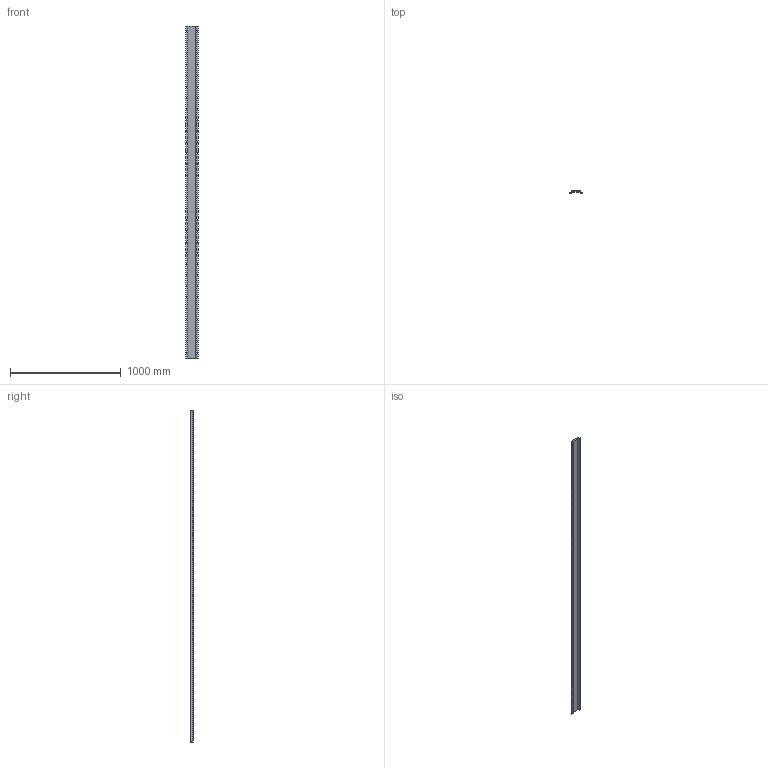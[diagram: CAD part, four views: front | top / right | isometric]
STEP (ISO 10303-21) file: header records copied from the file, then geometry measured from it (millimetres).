
FILE_DESCRIPTION (( 'STEP AP203' ), '1' );
FILE_NAME ('MLF 3_-_MLF 3 2996 mm lang.step', '2005-06-03T09:57:53', ( ' ' ), ( ' ' ), 'SwSTEP 2.0', 'SolidWorks 2004231', '' );
FILE_SCHEMA (( 'CONFIG_CONTROL_DESIGN' ));
Length unit declared in the file: millimetre
Products named in the file (1): MLF 3_-_MLF 3  2996 mm lang
Bounding box: 115 x 25.5 x 2996 mm (x, y, z)
Volume: 3889465.6 mm3; surface area: 1055218.6 mm2
Topology: 1 solids, 1 shells, 320 faces, 1146 edges, 760 vertices
Faces by surface type: plane 180, cylinder 140
Entity records: 12707 total; most frequent: CARTESIAN_POINT 2947, ORIENTED_EDGE 2292, DIRECTION 1948, EDGE_CURVE 1146, VERTEX_POINT 760, AXIS2_PLACEMENT_3D 721, VECTOR 506, LINE 506
